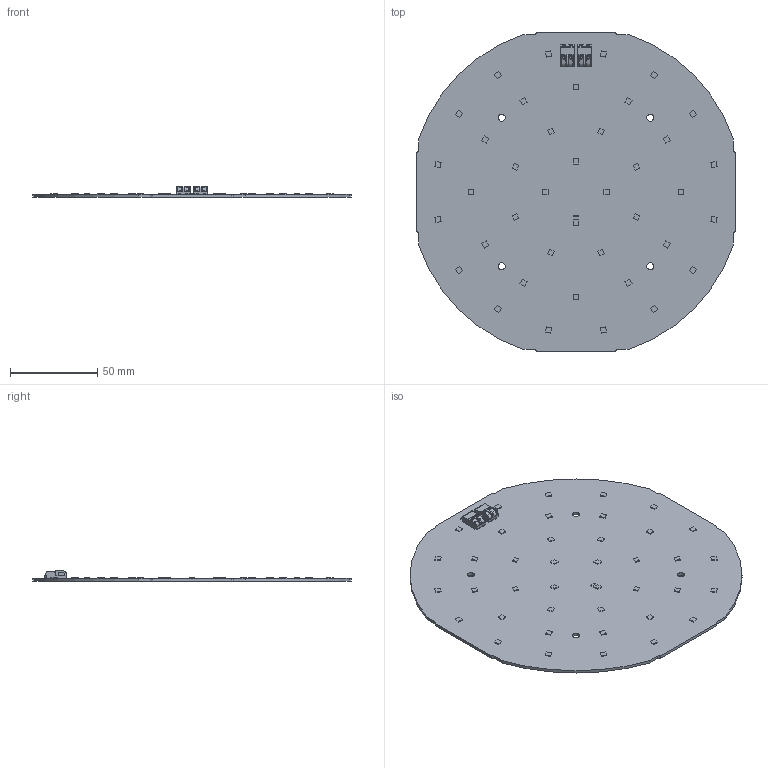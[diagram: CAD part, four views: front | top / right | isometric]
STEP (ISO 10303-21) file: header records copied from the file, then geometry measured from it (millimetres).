
FILE_DESCRIPTION((''),'2;1');
FILE_NAME('16208842_CLE-G4-190-ADV-EM','2019-06-17T09:49:01',('bernhard.fink'),(''),'CREO PARAMETRIC BY PTC INC, 2017380','CREO PARAMETRIC BY PTC INC, 2017380','');
FILE_SCHEMA(('AUTOMOTIVE_DESIGN { 1 0 10303 214 1 1 1 1 }'));
Length unit declared in the file: millimetre
Products named in the file (1): 16208842_CLE-G4-190-ADV-EM
Bounding box: 182 x 182 x 6.15 mm (x, y, z)
Volume: 46431.1 mm3; surface area: 57751.7 mm2
Topology: 1 solids, 1 shells, 601 faces, 1642 edges, 1092 vertices
Faces by surface type: plane 469, cylinder 128, sphere 4
Entity records: 28345 total; most frequent: CARTESIAN_POINT 3524, ORIENTED_EDGE 3284, DIRECTION 3072, PRESENTATION_STYLE_ASSIGNMENT 2206, STYLED_ITEM 1643, CURVE_STYLE 1642, EDGE_CURVE 1642, VECTOR 1330
